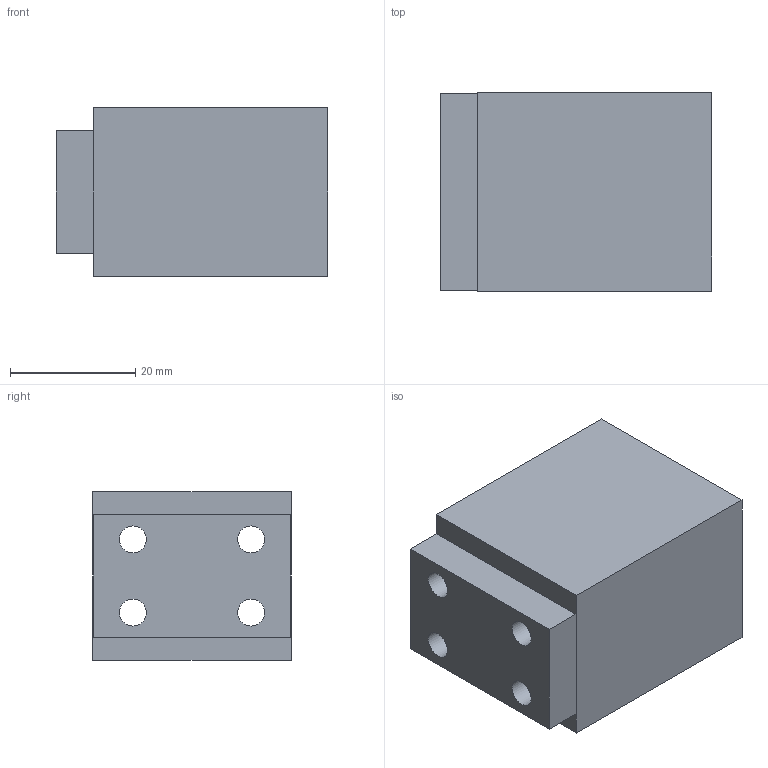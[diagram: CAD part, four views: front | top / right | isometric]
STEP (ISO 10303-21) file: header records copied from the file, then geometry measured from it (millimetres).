
FILE_DESCRIPTION(('Mechanical CAD reference from nasji.com'),'2;1');
FILE_NAME('NASJI.step','',(''),(''),'','NASJI distribution','');
FILE_SCHEMA(('AUTOMOTIVE_DESIGN { 1 0 10303 214 1 1 1 1 }'));
Length unit declared in the file: millimetre
Products named in the file (1): Open CASCADE STEP translator 7.8 153
Bounding box: 43.4 x 31.7 x 26.9 mm (x, y, z)
Volume: 33056.6 mm3; surface area: 8929.7 mm2
Topology: 1 solids, 1 shells, 15 faces, 36 edges, 24 vertices
Faces by surface type: plane 11, cylinder 4
Full cylindrical faces by diameter (mm): 4.3 x4
Entity records: 944 total; most frequent: CARTESIAN_POINT 172, DIRECTION 144, LINE 92, VECTOR 92, ORIENTED_EDGE 72, PCURVE 72, DEFINITIONAL_REPRESENTATION 72, EDGE_CURVE 36
